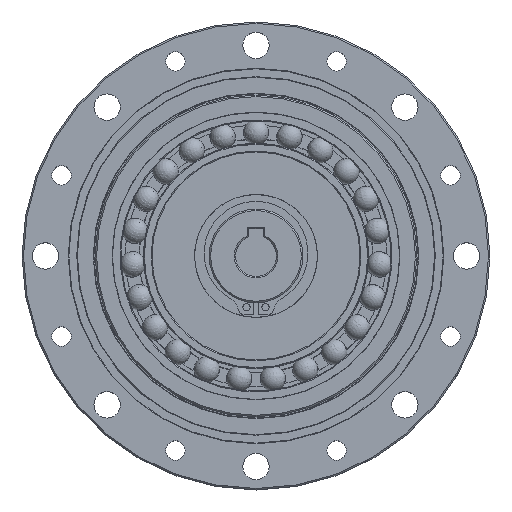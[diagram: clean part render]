
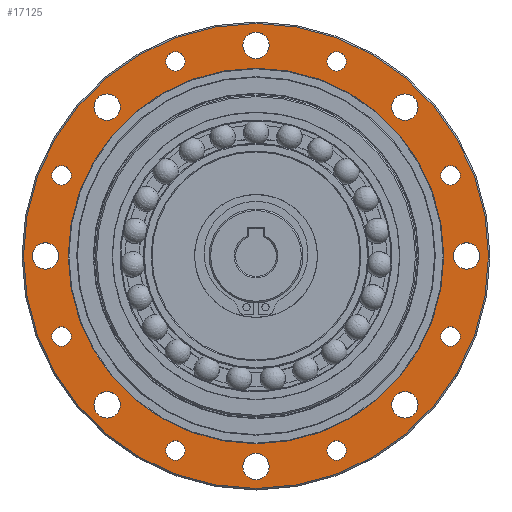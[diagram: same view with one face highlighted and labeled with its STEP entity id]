
A CAD part, top view. The second image highlights one B-rep face of the part: STEP entity #17125.
In plain terms, the highlighted planar face has unit normal (0, 0, 1).
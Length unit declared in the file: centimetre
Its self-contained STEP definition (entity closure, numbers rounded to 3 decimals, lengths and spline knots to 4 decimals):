
#2810=PLANE('',#18495);
#4422=FACE_BOUND('',#6294,.T.);
#4423=FACE_BOUND('',#6295,.T.);
#4424=FACE_BOUND('',#6296,.T.);
#4425=FACE_BOUND('',#6297,.T.);
#4426=FACE_BOUND('',#6298,.T.);
#4427=FACE_BOUND('',#6299,.T.);
#4428=FACE_BOUND('',#6300,.T.);
#4429=FACE_BOUND('',#6301,.T.);
#4430=FACE_BOUND('',#6302,.T.);
#4431=FACE_BOUND('',#6303,.T.);
#4432=FACE_BOUND('',#6304,.T.);
#4433=FACE_BOUND('',#6305,.T.);
#4434=FACE_BOUND('',#6306,.T.);
#4435=FACE_BOUND('',#6307,.T.);
#4436=FACE_BOUND('',#6308,.T.);
#4437=FACE_BOUND('',#6309,.T.);
#4438=FACE_BOUND('',#6310,.T.);
#4439=FACE_BOUND('',#6311,.T.);
#6294=EDGE_LOOP('',(#13315));
#6295=EDGE_LOOP('',(#13316));
#6296=EDGE_LOOP('',(#13317));
#6297=EDGE_LOOP('',(#13318));
#6298=EDGE_LOOP('',(#13319));
#6299=EDGE_LOOP('',(#13320));
#6300=EDGE_LOOP('',(#13321));
#6301=EDGE_LOOP('',(#13322));
#6302=EDGE_LOOP('',(#13323));
#6303=EDGE_LOOP('',(#13324));
#6304=EDGE_LOOP('',(#13325));
#6305=EDGE_LOOP('',(#13326));
#6306=EDGE_LOOP('',(#13327));
#6307=EDGE_LOOP('',(#13328));
#6308=EDGE_LOOP('',(#13329));
#6309=EDGE_LOOP('',(#13330));
#6310=EDGE_LOOP('',(#13331));
#6311=EDGE_LOOP('',(#13332));
#7482=CIRCLE('',#18426,6.42);
#7484=CIRCLE('',#18429,7.95);
#7508=CIRCLE('',#18461,0.45);
#7509=CIRCLE('',#18463,0.45);
#7510=CIRCLE('',#18465,0.45);
#7511=CIRCLE('',#18467,0.45);
#7512=CIRCLE('',#18469,0.45);
#7513=CIRCLE('',#18471,0.45);
#7514=CIRCLE('',#18473,0.45);
#7515=CIRCLE('',#18475,0.45);
#7516=CIRCLE('',#18477,0.3324);
#7517=CIRCLE('',#18479,0.3324);
#7518=CIRCLE('',#18481,0.3324);
#7519=CIRCLE('',#18483,0.3324);
#7520=CIRCLE('',#18485,0.3324);
#7521=CIRCLE('',#18487,0.3324);
#7522=CIRCLE('',#18489,0.3324);
#7523=CIRCLE('',#18491,0.3324);
#8637=VERTEX_POINT('',#26434);
#8639=VERTEX_POINT('',#26439);
#8663=VERTEX_POINT('',#26495);
#8664=VERTEX_POINT('',#26498);
#8665=VERTEX_POINT('',#26501);
#8666=VERTEX_POINT('',#26504);
#8667=VERTEX_POINT('',#26507);
#8668=VERTEX_POINT('',#26510);
#8669=VERTEX_POINT('',#26513);
#8670=VERTEX_POINT('',#26516);
#8671=VERTEX_POINT('',#26519);
#8672=VERTEX_POINT('',#26522);
#8673=VERTEX_POINT('',#26525);
#8674=VERTEX_POINT('',#26528);
#8675=VERTEX_POINT('',#26531);
#8676=VERTEX_POINT('',#26534);
#8677=VERTEX_POINT('',#26537);
#8678=VERTEX_POINT('',#26540);
#10389=EDGE_CURVE('',#8637,#8637,#7482,.T.);
#10391=EDGE_CURVE('',#8639,#8639,#7484,.T.);
#10415=EDGE_CURVE('',#8663,#8663,#7508,.T.);
#10416=EDGE_CURVE('',#8664,#8664,#7509,.T.);
#10417=EDGE_CURVE('',#8665,#8665,#7510,.T.);
#10418=EDGE_CURVE('',#8666,#8666,#7511,.T.);
#10419=EDGE_CURVE('',#8667,#8667,#7512,.T.);
#10420=EDGE_CURVE('',#8668,#8668,#7513,.T.);
#10421=EDGE_CURVE('',#8669,#8669,#7514,.T.);
#10422=EDGE_CURVE('',#8670,#8670,#7515,.T.);
#10423=EDGE_CURVE('',#8671,#8671,#7516,.T.);
#10424=EDGE_CURVE('',#8672,#8672,#7517,.T.);
#10425=EDGE_CURVE('',#8673,#8673,#7518,.T.);
#10426=EDGE_CURVE('',#8674,#8674,#7519,.T.);
#10427=EDGE_CURVE('',#8675,#8675,#7520,.T.);
#10428=EDGE_CURVE('',#8676,#8676,#7521,.T.);
#10429=EDGE_CURVE('',#8677,#8677,#7522,.T.);
#10430=EDGE_CURVE('',#8678,#8678,#7523,.T.);
#13315=ORIENTED_EDGE('',*,*,#10430,.F.);
#13316=ORIENTED_EDGE('',*,*,#10429,.F.);
#13317=ORIENTED_EDGE('',*,*,#10428,.F.);
#13318=ORIENTED_EDGE('',*,*,#10427,.F.);
#13319=ORIENTED_EDGE('',*,*,#10426,.F.);
#13320=ORIENTED_EDGE('',*,*,#10425,.F.);
#13321=ORIENTED_EDGE('',*,*,#10424,.F.);
#13322=ORIENTED_EDGE('',*,*,#10423,.F.);
#13323=ORIENTED_EDGE('',*,*,#10422,.F.);
#13324=ORIENTED_EDGE('',*,*,#10421,.F.);
#13325=ORIENTED_EDGE('',*,*,#10420,.F.);
#13326=ORIENTED_EDGE('',*,*,#10419,.F.);
#13327=ORIENTED_EDGE('',*,*,#10418,.F.);
#13328=ORIENTED_EDGE('',*,*,#10417,.F.);
#13329=ORIENTED_EDGE('',*,*,#10416,.F.);
#13330=ORIENTED_EDGE('',*,*,#10415,.F.);
#13331=ORIENTED_EDGE('',*,*,#10391,.F.);
#13332=ORIENTED_EDGE('',*,*,#10389,.F.);
#17125=ADVANCED_FACE('',(#4422,#4423,#4424,#4425,#4426,#4427,#4428,#4429,
#4430,#4431,#4432,#4433,#4434,#4435,#4436,#4437,#4438,#4439),#2810,.F.);
#18426=AXIS2_PLACEMENT_3D('',#26435,#21314,#21315);
#18429=AXIS2_PLACEMENT_3D('',#26440,#21320,#21321);
#18461=AXIS2_PLACEMENT_3D('',#26496,#21384,#21385);
#18463=AXIS2_PLACEMENT_3D('',#26499,#21388,#21389);
#18465=AXIS2_PLACEMENT_3D('',#26502,#21392,#21393);
#18467=AXIS2_PLACEMENT_3D('',#26505,#21396,#21397);
#18469=AXIS2_PLACEMENT_3D('',#26508,#21400,#21401);
#18471=AXIS2_PLACEMENT_3D('',#26511,#21404,#21405);
#18473=AXIS2_PLACEMENT_3D('',#26514,#21408,#21409);
#18475=AXIS2_PLACEMENT_3D('',#26517,#21412,#21413);
#18477=AXIS2_PLACEMENT_3D('',#26520,#21416,#21417);
#18479=AXIS2_PLACEMENT_3D('',#26523,#21420,#21421);
#18481=AXIS2_PLACEMENT_3D('',#26526,#21424,#21425);
#18483=AXIS2_PLACEMENT_3D('',#26529,#21428,#21429);
#18485=AXIS2_PLACEMENT_3D('',#26532,#21432,#21433);
#18487=AXIS2_PLACEMENT_3D('',#26535,#21436,#21437);
#18489=AXIS2_PLACEMENT_3D('',#26538,#21440,#21441);
#18491=AXIS2_PLACEMENT_3D('',#26541,#21444,#21445);
#18495=AXIS2_PLACEMENT_3D('',#26546,#21452,#21453);
#21314=DIRECTION('center_axis',(0.,0.,
1.));
#21315=DIRECTION('ref_axis',(1.,0.,0.));
#21320=DIRECTION('center_axis',(0.,0.,
-1.));
#21321=DIRECTION('ref_axis',(1.,0.,0.));
#21384=DIRECTION('center_axis',(0.,0.,
1.));
#21385=DIRECTION('ref_axis',(-1.,0.,0.));
#21388=DIRECTION('center_axis',(0.,0.,
1.));
#21389=DIRECTION('ref_axis',(-1.,0.,0.));
#21392=DIRECTION('center_axis',(0.,0.,
1.));
#21393=DIRECTION('ref_axis',(-1.,0.,0.));
#21396=DIRECTION('center_axis',(0.,0.,
1.));
#21397=DIRECTION('ref_axis',(-1.,0.,0.));
#21400=DIRECTION('center_axis',(0.,0.,
1.));
#21401=DIRECTION('ref_axis',(-1.,0.,0.));
#21404=DIRECTION('center_axis',(0.,0.,
1.));
#21405=DIRECTION('ref_axis',(-1.,0.,0.));
#21408=DIRECTION('center_axis',(0.,0.,
1.));
#21409=DIRECTION('ref_axis',(-1.,0.,0.));
#21412=DIRECTION('center_axis',(0.,0.,
1.));
#21413=DIRECTION('ref_axis',(-1.,0.,0.));
#21416=DIRECTION('center_axis',(0.,0.,
1.));
#21417=DIRECTION('ref_axis',(-1.,0.,0.));
#21420=DIRECTION('center_axis',(0.,0.,
1.));
#21421=DIRECTION('ref_axis',(-1.,0.,0.));
#21424=DIRECTION('center_axis',(0.,0.,
1.));
#21425=DIRECTION('ref_axis',(-1.,0.,0.));
#21428=DIRECTION('center_axis',(0.,0.,
1.));
#21429=DIRECTION('ref_axis',(-1.,0.,0.));
#21432=DIRECTION('center_axis',(0.,0.,
1.));
#21433=DIRECTION('ref_axis',(-1.,0.,0.));
#21436=DIRECTION('center_axis',(0.,0.,
1.));
#21437=DIRECTION('ref_axis',(-1.,0.,0.));
#21440=DIRECTION('center_axis',(0.,0.,
1.));
#21441=DIRECTION('ref_axis',(-1.,0.,0.));
#21444=DIRECTION('center_axis',(0.,0.,
1.));
#21445=DIRECTION('ref_axis',(-1.,0.,0.));
#21452=DIRECTION('center_axis',(0.,0.,
-1.));
#21453=DIRECTION('ref_axis',(0.,-1.,0.));
#26434=CARTESIAN_POINT('',(-6.42,0.1176,6.65));
#26435=CARTESIAN_POINT('Origin',(0.,0.1176,
6.65));
#26439=CARTESIAN_POINT('',(-7.95,0.1176,6.65));
#26440=CARTESIAN_POINT('Origin',(0.,0.1176,
6.65));
#26495=CARTESIAN_POINT('',(-4.6412,-4.9735,6.65));
#26496=CARTESIAN_POINT('Origin',(-5.0912,-4.9735,6.65));
#26498=CARTESIAN_POINT('',(-4.6412,5.2088,6.65));
#26499=CARTESIAN_POINT('Origin',(-5.0912,5.2088,6.65));
#26501=CARTESIAN_POINT('',(5.5412,5.2088,6.65));
#26502=CARTESIAN_POINT('Origin',(5.0912,5.2088,6.65));
#26504=CARTESIAN_POINT('',(5.5412,-4.9735,6.65));
#26505=CARTESIAN_POINT('Origin',(5.0912,-4.9735,6.65));
#26507=CARTESIAN_POINT('',(0.45,-7.0824,6.65));
#26508=CARTESIAN_POINT('Origin',(0.,-7.0824,
6.65));
#26510=CARTESIAN_POINT('',(7.65,0.1176,6.65));
#26511=CARTESIAN_POINT('Origin',(7.2,0.1176,6.65));
#26513=CARTESIAN_POINT('',(0.45,7.3176,6.65));
#26514=CARTESIAN_POINT('Origin',(0.,7.3176,
6.65));
#26516=CARTESIAN_POINT('',(-6.75,0.1176,6.65));
#26517=CARTESIAN_POINT('Origin',(-7.2,0.1176,6.65));
#26519=CARTESIAN_POINT('',(-6.3196,-2.6377,6.65));
#26520=CARTESIAN_POINT('Origin',(-6.6519,-2.6377,6.65));
#26522=CARTESIAN_POINT('',(-2.423,6.7696,6.65));
#26523=CARTESIAN_POINT('Origin',(-2.7553,6.7696,6.65));
#26525=CARTESIAN_POINT('',(6.9843,2.873,6.65));
#26526=CARTESIAN_POINT('Origin',(6.6519,2.873,6.65));
#26528=CARTESIAN_POINT('',(3.0877,-6.5343,6.65));
#26529=CARTESIAN_POINT('Origin',(2.7553,-6.5343,6.65));
#26531=CARTESIAN_POINT('',(-2.423,-6.5343,6.65));
#26532=CARTESIAN_POINT('Origin',(-2.7553,-6.5343,6.65));
#26534=CARTESIAN_POINT('',(6.9843,-2.6377,6.65));
#26535=CARTESIAN_POINT('Origin',(6.6519,-2.6377,6.65));
#26537=CARTESIAN_POINT('',(3.0877,6.7696,6.65));
#26538=CARTESIAN_POINT('Origin',(2.7553,6.7696,6.65));
#26540=CARTESIAN_POINT('',(-6.3196,2.873,6.65));
#26541=CARTESIAN_POINT('Origin',(-6.6519,2.873,6.65));
#26546=CARTESIAN_POINT('Origin',(-5.5,0.1176,6.65));
